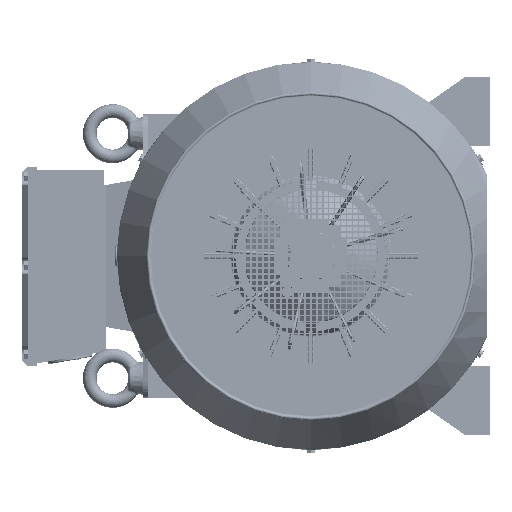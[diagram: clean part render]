
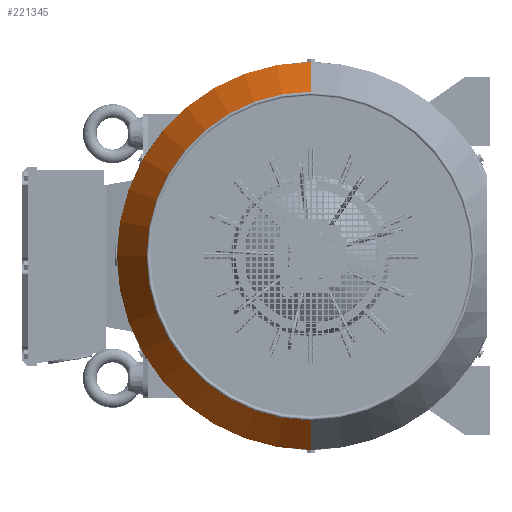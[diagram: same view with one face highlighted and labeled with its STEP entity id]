
A CAD part, left-side view. The second image highlights one B-rep face of the part: STEP entity #221345.
In plain terms, the highlighted conical face has half-angle 30 degrees and reference radius 289 mm.
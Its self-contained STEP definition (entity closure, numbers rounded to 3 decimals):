
#36574 = CARTESIAN_POINT ( 'NONE',  ( 289., 0., 312. ) ) ;
#36676 = CARTESIAN_POINT ( 'NONE',  ( 341., 0., 221.933 ) ) ;
#36682 = CARTESIAN_POINT ( 'NONE',  ( -289., 0., 312. ) ) ;
#36717 = DIRECTION ( 'NONE',  ( -1., 0., 0. ) ) ;
#36719 = DIRECTION ( 'NONE',  ( 0., 0., -1. ) ) ;
#36720 = CARTESIAN_POINT ( 'NONE',  ( 0., 0., 312. ) ) ;
#36722 = AXIS2_PLACEMENT_3D ( 'NONE', #36720, #36719, #36717 ) ;
#36741 = CIRCLE ( 'NONE', #36722, 289. ) ;
#36777 = CARTESIAN_POINT ( 'NONE',  ( 0., 0., 221.933 ) ) ;
#36779 = AXIS2_PLACEMENT_3D ( 'NONE', #36777, #36974, #36970 ) ;
#36782 = CIRCLE ( 'NONE', #36779, 341. ) ;
#36913 = DIRECTION ( 'NONE',  ( -0.5, 0., -0.866 ) ) ;
#36916 = VECTOR ( 'NONE', #36913, 1000. ) ;
#36920 = CARTESIAN_POINT ( 'NONE',  ( -289., 0., 312. ) ) ;
#36921 = LINE ( 'NONE', #36920, #36916 ) ;
#36969 = CARTESIAN_POINT ( 'NONE',  ( -341., 0., 221.933 ) ) ;
#36970 = DIRECTION ( 'NONE',  ( -1., 0., 0. ) ) ;
#36974 = DIRECTION ( 'NONE',  ( 0., 0., -1. ) ) ;
#37076 = AXIS2_PLACEMENT_3D ( 'NONE', #37265, #37263, #37261 ) ;
#37078 = CONICAL_SURFACE ( 'NONE', #37076, 289., 0.524 ) ;
#37080 = FACE_OUTER_BOUND ( 'NONE', #221354, .T. ) ;
#37208 = DIRECTION ( 'NONE',  ( 0.5, 0., -0.866 ) ) ;
#37209 = VECTOR ( 'NONE', #37208, 1000. ) ;
#37212 = CARTESIAN_POINT ( 'NONE',  ( 289., 0., 312. ) ) ;
#37214 = LINE ( 'NONE', #37212, #37209 ) ;
#37261 = DIRECTION ( 'NONE',  ( -1., 0., 0. ) ) ;
#37263 = DIRECTION ( 'NONE',  ( 0., 0., -1. ) ) ;
#37265 = CARTESIAN_POINT ( 'NONE',  ( 0., 0., 312. ) ) ;
#221135 = VERTEX_POINT ( 'NONE', #36574 ) ;
#221155 = EDGE_CURVE ( 'NONE', #221167, #221135, #36741, .T. ) ;
#221167 = VERTEX_POINT ( 'NONE', #36682 ) ;
#221177 = VERTEX_POINT ( 'NONE', #36676 ) ;
#221191 = ORIENTED_EDGE ( 'NONE', *, *, #221204, .F. ) ;
#221204 = EDGE_CURVE ( 'NONE', #221206, #221177, #36782, .T. ) ;
#221206 = VERTEX_POINT ( 'NONE', #36969 ) ;
#221220 = ORIENTED_EDGE ( 'NONE', *, *, #221229, .F. ) ;
#221229 = EDGE_CURVE ( 'NONE', #221167, #221206, #36921, .T. ) ;
#221345 = ADVANCED_FACE ( 'NONE', ( #37080 ), #37078, .T. ) ;
#221354 = EDGE_LOOP ( 'NONE', ( #221364, #221378, #221191, #221220 ) ) ;
#221364 = ORIENTED_EDGE ( 'NONE', *, *, #221155, .T. ) ;
#221378 = ORIENTED_EDGE ( 'NONE', *, *, #221387, .T. ) ;
#221387 = EDGE_CURVE ( 'NONE', #221135, #221177, #37214, .T. ) ;
